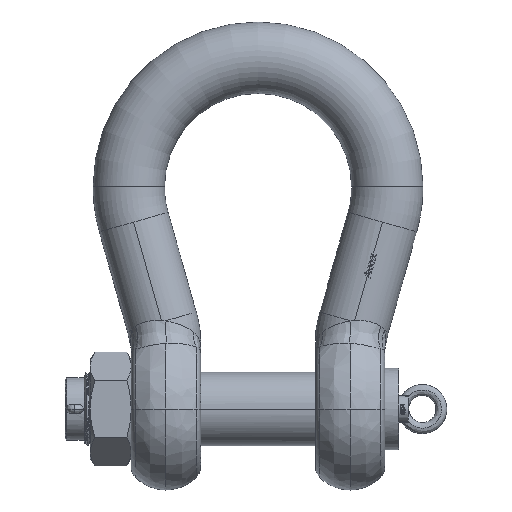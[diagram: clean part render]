
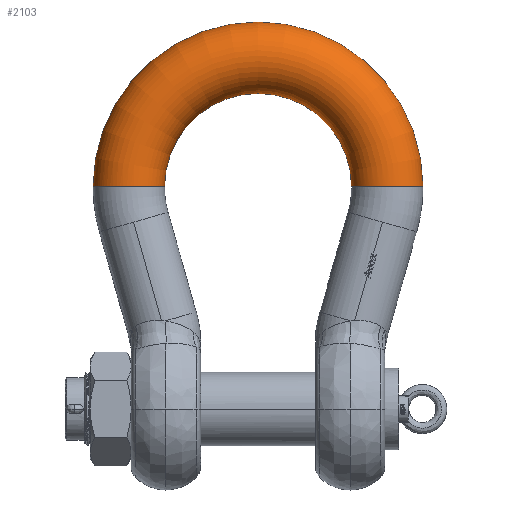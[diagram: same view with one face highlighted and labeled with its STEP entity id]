
A CAD part, front view. The second image highlights one B-rep face of the part: STEP entity #2103.
In plain terms, the highlighted toroidal (fillet/blend) face has major radius 190 mm and minor radius 52.495 mm.
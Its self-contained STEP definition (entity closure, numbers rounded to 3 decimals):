
#2103=ADVANCED_FACE('',(#5016),#5017,.T.);
#5016=FACE_OUTER_BOUND('',#10802,.T.);
#5017=TOROIDAL_SURFACE('',#10803,190.0,52.495);
#10802=EDGE_LOOP('',(#33641,#33642,#33643,#33644));
#10803=AXIS2_PLACEMENT_3D('',#33645,#33646,#33647);
#33641=ORIENTED_EDGE('',*,*,#44190,.T.);
#33642=ORIENTED_EDGE('',*,*,#44191,.F.);
#33643=ORIENTED_EDGE('',*,*,#44192,.T.);
#33644=ORIENTED_EDGE('',*,*,#44062,.F.);
#33645=CARTESIAN_POINT('',(0.0,0.0,326.5));
#33646=DIRECTION('',(0.0,-1.0,0.0));
#33647=DIRECTION('',(1.0,0.0,0.0));
#44062=EDGE_CURVE('',#50735,#50734,#50737,.F.);
#44190=EDGE_CURVE('',#50735,#50908,#50909,.F.);
#44191=EDGE_CURVE('',#50910,#50908,#50911,.T.);
#44192=EDGE_CURVE('',#50910,#50734,#50912,.T.);
#50734=VERTEX_POINT('',#64028);
#50735=VERTEX_POINT('',#64029);
#50737=CIRCLE('',#64031,52.495);
#50908=VERTEX_POINT('',#64398);
#50909=CIRCLE('',#64399,137.505);
#50910=VERTEX_POINT('',#64400);
#50911=B_SPLINE_CURVE_WITH_KNOTS('',5,(#64401,#64402,#64403,#64404,#64405,#64406,#64407,#64408,#64409,#64410,#64411,#64412,#64413,#64414,#64415,#64416,#64417,#64418,#64419,#64420,#64421,#64422,#64423,#64424),.UNSPECIFIED.,.F.,.F.,(6,3,3,3,3,3,3,6),(0.,35.138,70.275,105.413,140.551,175.689,210.826,233.227),.UNSPECIFIED.);
#50912=CIRCLE('',#64425,242.495);
#64028=CARTESIAN_POINT('',(-242.495,0.,326.5));
#64029=CARTESIAN_POINT('',(-137.505,0.,326.5));
#64031=AXIS2_PLACEMENT_3D('',#93533,#93534,#93535);
#64398=CARTESIAN_POINT('',(137.505,0.,326.5));
#64399=AXIS2_PLACEMENT_3D('',#93538,#93539,#93540);
#64400=CARTESIAN_POINT('',(242.495,0.0,326.5));
#64401=CARTESIAN_POINT('',(242.495,0.,326.5));
#64402=CARTESIAN_POINT('',(242.495,-4.969,326.5));
#64403=CARTESIAN_POINT('',(241.907,-9.938,326.5));
#64404=CARTESIAN_POINT('',(240.731,-14.815,326.5));
#64405=CARTESIAN_POINT('',(237.247,-24.197,326.5));
#64406=CARTESIAN_POINT('',(231.67,-32.507,326.5));
#64407=CARTESIAN_POINT('',(228.401,-36.311,326.5));
#64408=CARTESIAN_POINT('',(221.023,-43.074,326.5));
#64409=CARTESIAN_POINT('',(212.272,-47.928,326.5));
#64410=CARTESIAN_POINT('',(207.627,-49.824,326.5));
#64411=CARTESIAN_POINT('',(197.978,-52.48,326.5));
#64412=CARTESIAN_POINT('',(187.976,-52.811,326.5));
#64413=CARTESIAN_POINT('',(182.978,-52.381,326.5));
#64414=CARTESIAN_POINT('',(173.179,-50.347,326.5));
#64415=CARTESIAN_POINT('',(164.125,-46.083,326.5));
#64416=CARTESIAN_POINT('',(159.873,-43.422,326.5));
#64417=CARTESIAN_POINT('',(152.078,-37.145,326.5));
#64418=CARTESIAN_POINT('',(145.964,-29.222,326.5));
#64419=CARTESIAN_POINT('',(143.392,-24.915,326.5));
#64420=CARTESIAN_POINT('',(140.054,-17.432,326.5));
#64421=CARTESIAN_POINT('',(138.222,-9.48,326.5));
#64422=CARTESIAN_POINT('',(137.744,-6.336,326.5));
#64423=CARTESIAN_POINT('',(137.505,-3.168,326.5));
#64424=CARTESIAN_POINT('',(137.505,0.,326.5));
#64425=AXIS2_PLACEMENT_3D('',#93541,#93542,#93543);
#93533=CARTESIAN_POINT('',(-190.0,0.0,326.5));
#93534=DIRECTION('',(0.,0.0,1.0));
#93535=DIRECTION('',(-1.0,0.0,0.));
#93538=CARTESIAN_POINT('',(0.0,0.,326.5));
#93539=DIRECTION('',(0.0,-1.0,0.0));
#93540=DIRECTION('',(-1.0,0.0,0.0));
#93541=CARTESIAN_POINT('',(0.0,0.,326.5));
#93542=DIRECTION('',(0.0,-1.0,0.0));
#93543=DIRECTION('',(-1.0,0.0,0.0));
